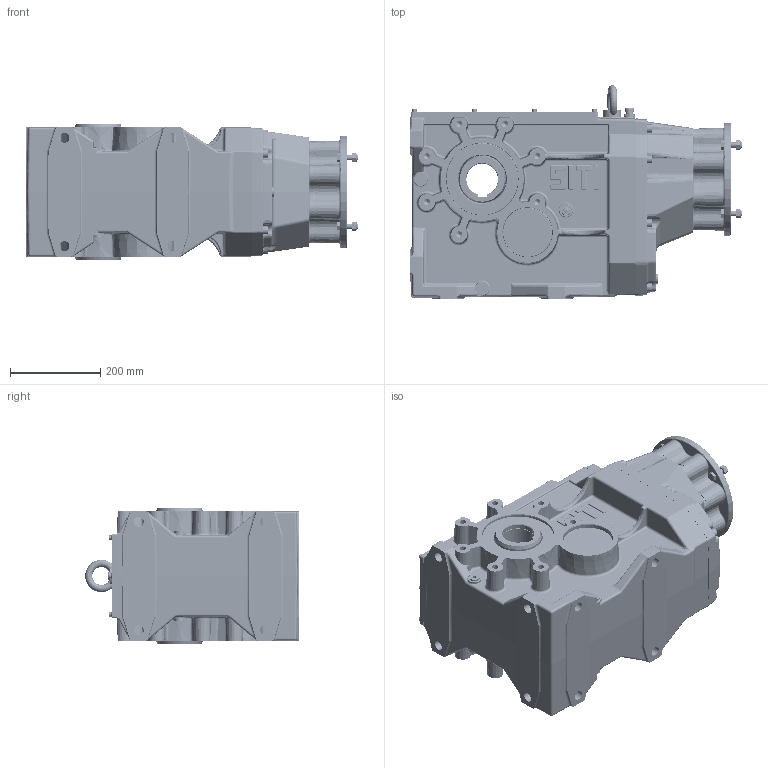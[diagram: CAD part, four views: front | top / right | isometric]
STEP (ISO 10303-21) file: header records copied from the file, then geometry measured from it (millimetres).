
FILE_DESCRIPTION((''),'2;1');
FILE_NAME('C:\Users\m.piscopiello.SITIRIDUTTORI\Desktop\3D x SITO\MBHGC 140 PAM 100-112\MBHGC_140 C GR 100-112 B5.stp','2013-05-28T11:08:36',('m.piscopiello'),(''),'Autodesk Inventor 2012','Autodesk Inventor 2012','');
FILE_SCHEMA(('CONFIG_CONTROL_DESIGN'));
Length unit declared in the file: millimetre
Products named in the file (1): MBHGC_140 C GR 100-112 B5
Bounding box: 736 x 474 x 300 mm (x, y, z)
Volume: 18625907.6 mm3; surface area: 2884708.4 mm2
Topology: 60 solids, 62 shells, 4371 faces, 10415 edges, 6186 vertices
Faces by surface type: cylinder 1217, plane 1194, bspline 908, torus 466, cone 436, sphere 150
Full cylindrical faces by diameter (mm): 2 x2, 3.15 x2, 3.5 x2, 4.917 x10, 6 x20, 6.4 x10, 6.647 x1, 7 x10, 8 x1, 10 x10, 10.106 x8, 12 x46, 12.5 x12, 13 x16, 13.835 x14, 14 x4, 14.95 x2, 16 x1, 16.6 x6, 17.294 x3, 18 x16, 19.5 x1, 20.5 x16, 22 x9, 25 x1, 26 x1, 30 x3, 40 x1, 42 x1, 46 x1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
Entity records: 172866 total; most frequent: CARTESIAN_POINT 75245, ORIENTED_EDGE 19112, DIRECTION 18836, EDGE_CURVE 9556, AXIS2_PLACEMENT_3D 7948, VERTEX_POINT 5971, EDGE_LOOP 5164, STYLED_ITEM 4429
